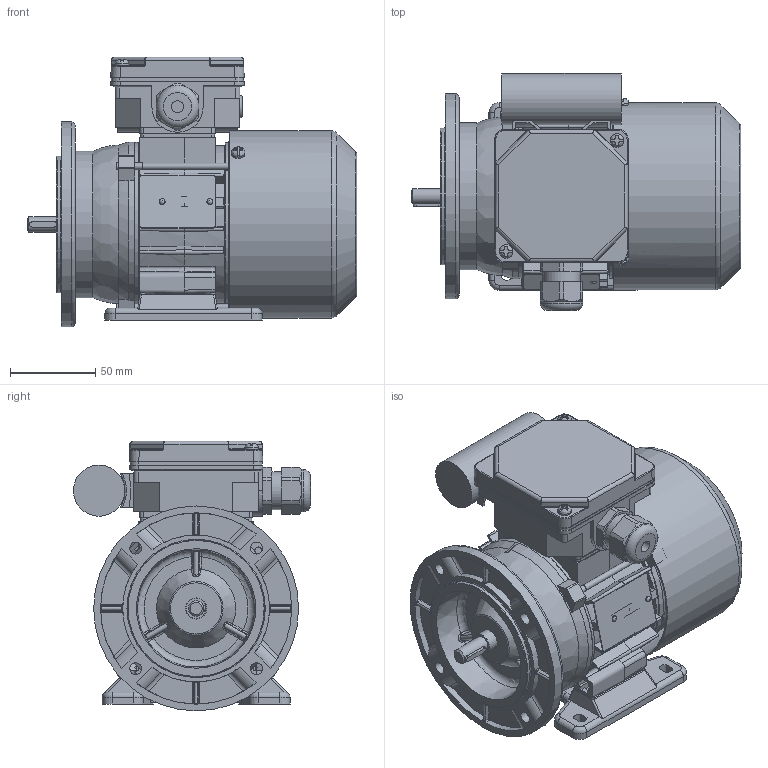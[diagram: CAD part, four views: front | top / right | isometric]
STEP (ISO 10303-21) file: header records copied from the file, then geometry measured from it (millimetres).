
FILE_DESCRIPTION( ( 'Unknown' ), '1' );
FILE_NAME( 'G:/Poczta Tk-1/STP/w.m.56/SEh56/SE(M)Lh56-B.stp', 'Unknown', ( 'K. Szlosek' ), ( 'BESEL S.A.' ), 'PSStep 17.0.49', 'Unknown', ' ' );
FILE_SCHEMA( ( 'AUTOMOTIVE_DESIGN { 1 0 10303 214 1 1 1 1 }' ) );
Length unit declared in the file: millimetre
Products named in the file (32): Assem1; K4-2320 Uszczelka nr 1 Sh71,80; K1-0512 Tarcza kołnierzowa B5  SKg56-..; K3-9987 kadłub ze stojanem Sh56-B; K3-2193 Tarcza łożyskowa P Sg56-2..; K3-9990 wał Sh56-B; K2-0860 Pokrywka skrzynki zaciskowej; Wpust A3x3x16; K3-2977 Osłona przewietrznika Sg56; K4-2820 Uszczelka nr 2 Sh71,80; Wkręt samogwintujący M4x8; Wkręt samogwintujący M4x16; K2-0879 Przewietrznik Sg56; Nitokołek A 2x6; K3-9440 Podstawa  skrzynki zaciskowej SEhR71-D; K4-0898 Tulejka uszczelniająca; K3-1974 Uchwyt kondensatora (mały); Kondensator bb 8uF; K1-0484 Łapa Sg56-.. w. robocza; Śruba ściągająca E_M4x75; Tabliczka znamionowa 32x44; Łożysko 6201; Dławnica M20x1,5
Assembly tree (47 placements, depth 2):
  Assem1
    K4-2320 Uszczelka nr 1 Sh71,80
    K1-0512 Tarcza kołnierzowa B5  SKg56-..
    K3-9987 kadłub ze stojanem Sh56-B
    K3-2193 Tarcza łożyskowa P Sg56-2..
    K3-9990 wał Sh56-B
    K2-0860 Pokrywka skrzynki zaciskowej
    Wpust A3x3x16
    K3-2977 Osłona przewietrznika Sg56
    K4-2820 Uszczelka nr 2 Sh71,80
    Wkręt samogwintujący M4x8  x3
    Wkręt samogwintujący M4x16  x2
    K2-0879 Przewietrznik Sg56
    Nitokołek A 2x6  x2
    K3-9440 Podstawa  skrzynki zaciskowej SEhR71-D
    K4-0898 Tulejka uszczelniająca
    K3-1974 Uchwyt kondensatora (mały)
    Kondensator bb 8uF
    K1-0484 Łapa Sg56-.. w. robocza
    Śruba ściągająca E_M4x75  x3
    Tabliczka znamionowa 32x44
    Łożysko 6201  x2
    Łożysko 6201  x2
    Łożysko 6201  x2
    Łożysko 6201  x2
    Łożysko 6201  x2
    Łożysko 6201  x2
    Łożysko 6201  x2
    Łożysko 6201  x2
    Łożysko 6201  x2
    Łożysko 6201  x2
    Dławnica M20x1,5
Bounding box: 193 x 138.82 x 158 mm (x, y, z)
Volume: 539119.1 mm3; surface area: 335532.5 mm2
Topology: 47 solids, 63 shells, 1986 faces, 5349 edges, 3454 vertices
Faces by surface type: plane 1013, cylinder 606, bspline 119, torus 110, cone 104, sphere 34
Full cylindrical faces by diameter (mm): 2 x2, 2.4 x2, 3 x1, 3.3 x3, 3.5 x2, 3.7 x10, 4 x8, 4.5 x4, 4.6 x1, 4.8 x4, 5 x4, 5.8 x4, 6.5 x1, 7 x8, 8 x6, 9 x1, 10 x2, 10.9 x1, 11 x1, 11.5 x1, 11.8 x2, 12 x4, 12.4 x2, 15.5 x1, 16 x1, 16.1 x1, 17 x2, 18 x1, 18.38 x1, 18.5 x1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
Entity records: 87214 total; most frequent: CARTESIAN_POINT 28054, ORIENTED_EDGE 9288, DIRECTION 9206, EDGE_CURVE 4644, AXIS2_PLACEMENT_3D 3398, VERTEX_POINT 3132, LINE 2410, VECTOR 2410
